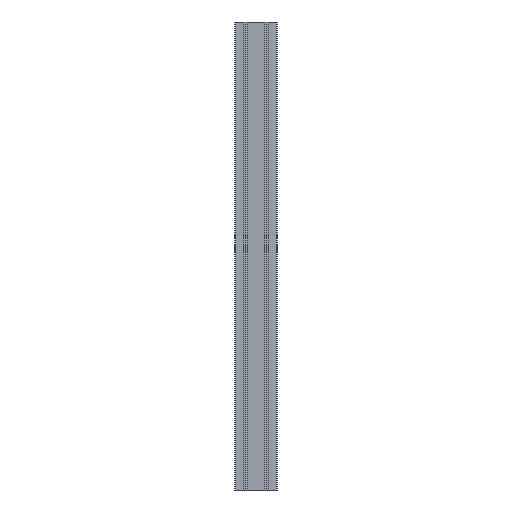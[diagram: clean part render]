
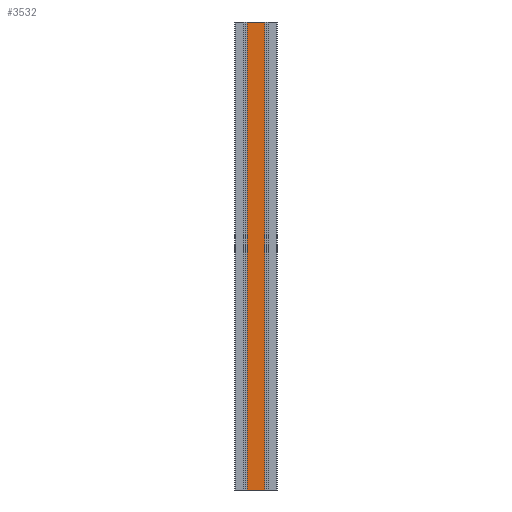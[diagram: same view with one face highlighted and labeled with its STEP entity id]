
A CAD part, front view. The second image highlights one B-rep face of the part: STEP entity #3532.
In plain terms, the highlighted planar face has unit normal (0, -1, 0).
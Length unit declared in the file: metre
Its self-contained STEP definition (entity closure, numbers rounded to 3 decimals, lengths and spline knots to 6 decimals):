
#111=PLANE('',#3821);
#279=FACE_OUTER_BOUND('',#457,.T.);
#457=EDGE_LOOP('',(#2833,#2834,#2835,#2836));
#807=LINE('',#5694,#1201);
#808=LINE('',#5697,#1202);
#809=LINE('',#5699,#1203);
#810=LINE('',#5700,#1204);
#1201=VECTOR('',#4667,1.);
#1202=VECTOR('',#4670,0.0367);
#1203=VECTOR('',#4671,0.0367);
#1204=VECTOR('',#4672,1.);
#1697=VERTEX_POINT('',#5690);
#1698=VERTEX_POINT('',#5692);
#1699=VERTEX_POINT('',#5696);
#1700=VERTEX_POINT('',#5698);
#2179=EDGE_CURVE('',#1697,#1698,#807,.T.);
#2180=EDGE_CURVE('',#1697,#1699,#808,.T.);
#2181=EDGE_CURVE('',#1700,#1698,#809,.T.);
#2182=EDGE_CURVE('',#1699,#1700,#810,.T.);
#2833=ORIENTED_EDGE('',*,*,#2180,.F.);
#2834=ORIENTED_EDGE('',*,*,#2179,.T.);
#2835=ORIENTED_EDGE('',*,*,#2181,.F.);
#2836=ORIENTED_EDGE('',*,*,#2182,.F.);
#3532=ADVANCED_FACE('',(#279),#111,.T.);
#3821=AXIS2_PLACEMENT_3D('',#5695,#4668,#4669);
#4667=DIRECTION('',(0.,0.,1.));
#4668=DIRECTION('center_axis',(0.,-1.,0.));
#4669=DIRECTION('ref_axis',(0.,0.,-1.));
#4670=DIRECTION('',(-1.,0.,0.));
#4671=DIRECTION('',(1.,0.,0.));
#4672=DIRECTION('',(0.,0.,1.));
#5690=CARTESIAN_POINT('',(0.01835,-0.0225,0.));
#5692=CARTESIAN_POINT('',(0.01835,-0.0225,1.));
#5694=CARTESIAN_POINT('',(0.01835,-0.0225,0.));
#5695=CARTESIAN_POINT('Origin',(-0.01835,-0.0225,0.));
#5696=CARTESIAN_POINT('',(-0.01835,-0.0225,0.));
#5697=CARTESIAN_POINT('',(0.01835,-0.0225,0.));
#5698=CARTESIAN_POINT('',(-0.01835,-0.0225,1.));
#5699=CARTESIAN_POINT('',(-0.01835,-0.0225,1.));
#5700=CARTESIAN_POINT('',(-0.01835,-0.0225,0.));
